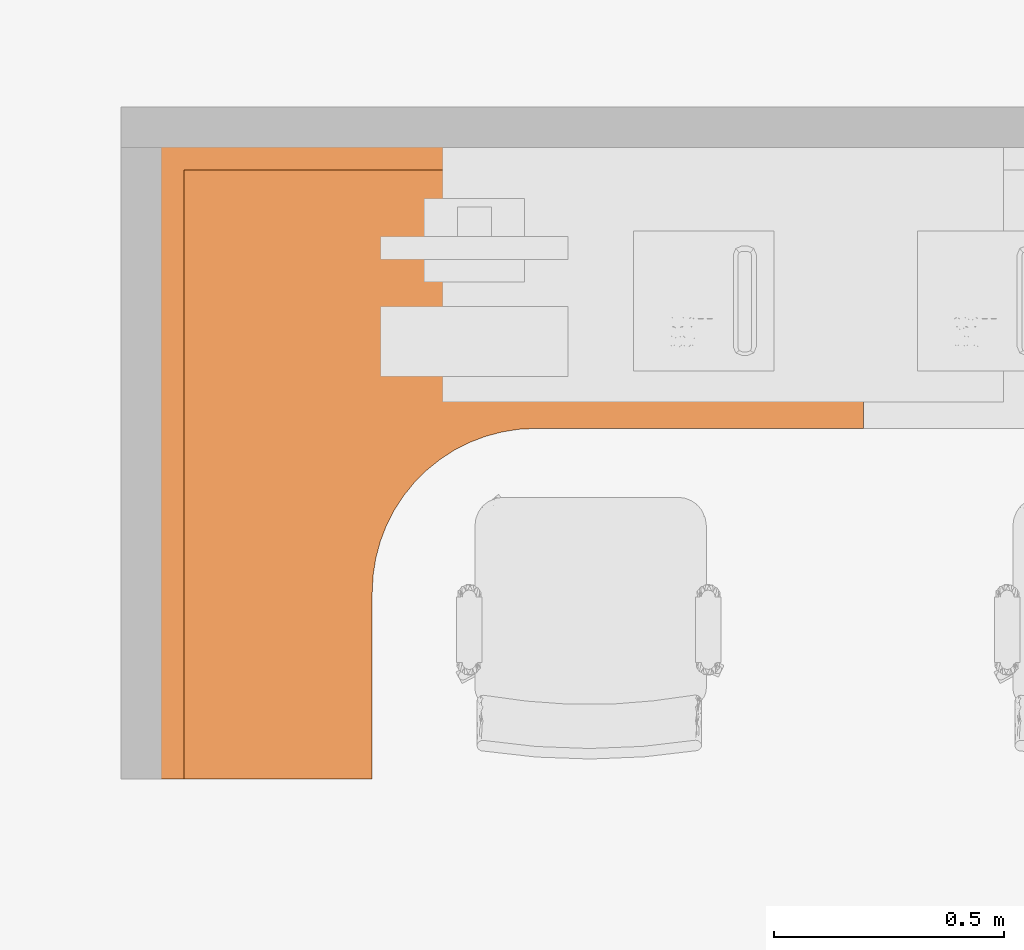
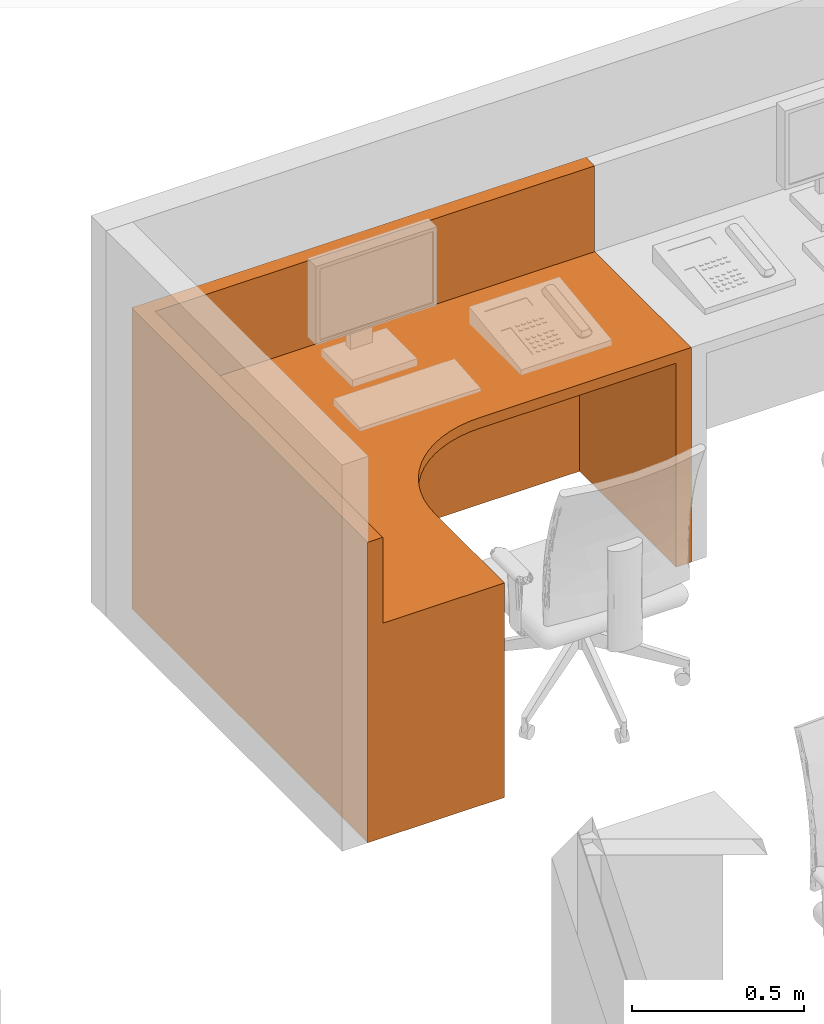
# One storey, part 56 of 142: 1 proxy.
"""IFC2X3 building model written with IfcOpenShell, lengths in feet."""

from ifc_helpers import new_model, entity, si_unit, converted_unit, derived_unit, direction, frame, frame_2d, origin, place, context, subcontext, project, spatial, polyline, circle_curve, parameter, trimmed, segment, composite_curve, rectangle, outline, extrude, source, transform, mapped, type_object, type_shapes, element, save


model = new_model("IFC2X3")

# Units and contexts
model_context = context("Model", 3, precision=0.0001, world=origin(), true_north=direction((6.12303176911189e-17, 1.0)))
body_context = subcontext(model_context, "Body", "Model", "MODEL_VIEW")
ifc_project = project(units=[converted_unit("LENGTHUNIT", "FOOT", entity("IfcRatioMeasure", 0.3048), si_unit("LENGTHUNIT", "METRE"), dimensions=[1, 0, 0, 0, 0, 0, 0]), converted_unit("AREAUNIT", "SQUARE FOOT", entity("IfcRatioMeasure", 0.09290304), si_unit("AREAUNIT", "SQUARE_METRE"), dimensions=[2, 0, 0, 0, 0, 0, 0]), converted_unit("VOLUMEUNIT", "CUBIC FOOT", entity("IfcRatioMeasure", 0.028316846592), si_unit("VOLUMEUNIT", "CUBIC_METRE"), dimensions=[3, 0, 0, 0, 0, 0, 0]), converted_unit("PLANEANGLEUNIT", "DEGREE", entity("IfcRatioMeasure", 0.0174532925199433), si_unit("PLANEANGLEUNIT", "RADIAN"), dimensions=[0, 0, 0, 0, 0, 0, 0]), si_unit("MASSUNIT", "GRAM", prefix="KILO"), derived_unit("MASSDENSITYUNIT", [(si_unit("MASSUNIT", "GRAM", prefix="KILO"), 1), (si_unit("LENGTHUNIT", "METRE"), -3)]), si_unit("TIMEUNIT", "SECOND"), si_unit("FREQUENCYUNIT", "HERTZ"), si_unit("THERMODYNAMICTEMPERATUREUNIT", "DEGREE_CELSIUS"), derived_unit("THERMALTRANSMITTANCEUNIT", [(si_unit("MASSUNIT", "GRAM", prefix="KILO"), 1), (si_unit("THERMODYNAMICTEMPERATUREUNIT", "KELVIN"), -1), (si_unit("TIMEUNIT", "SECOND"), -3)]), derived_unit("VOLUMETRICFLOWRATEUNIT", [(si_unit("LENGTHUNIT", "METRE"), 3), (si_unit("TIMEUNIT", "SECOND"), -1)]), si_unit("ELECTRICCURRENTUNIT", "AMPERE"), si_unit("ELECTRICVOLTAGEUNIT", "VOLT"), si_unit("POWERUNIT", "WATT"), si_unit("FORCEUNIT", "NEWTON"), si_unit("ILLUMINANCEUNIT", "LUX"), si_unit("LUMINOUSFLUXUNIT", "LUMEN"), si_unit("LUMINOUSINTENSITYUNIT", "CANDELA"), derived_unit("USERDEFINED", [(si_unit("MASSUNIT", "GRAM", prefix="KILO"), -1), (si_unit("LENGTHUNIT", "METRE"), -2), (si_unit("TIMEUNIT", "SECOND"), 3), (si_unit("LUMINOUSFLUXUNIT", "LUMEN"), 1)]), derived_unit("LINEARVELOCITYUNIT", [(si_unit("LENGTHUNIT", "METRE"), 1), (si_unit("TIMEUNIT", "SECOND"), -1)]), si_unit("PRESSUREUNIT", "PASCAL"), derived_unit("USERDEFINED", [(si_unit("LENGTHUNIT", "METRE"), -2), (si_unit("MASSUNIT", "GRAM", prefix="KILO"), 1), (si_unit("TIMEUNIT", "SECOND"), -2)])], contexts=[model_context])

# Site, building, storey, space
site_placement = place(None, origin())
site = spatial("IfcSite", under=ifc_project, at=site_placement, Name="Default", CompositionType="ELEMENT")
building_placement = place(site_placement, origin())
building = spatial("IfcBuilding", under=site, at=building_placement, Name="OUTPATIENT / PACT CLINIC (Ch. 265)", CompositionType="ELEMENT")
storey_placement = place(building_placement, origin())
storey = spatial("IfcBuildingStorey", under=building, at=storey_placement, Name="LEVEL 1", CompositionType="ELEMENT", Elevation=0.0)
space_placement = place(storey_placement, origin())
space = spatial("IfcSpace", under=storey, at=space_placement, Name="WRTM1", CompositionType="ELEMENT", InteriorOrExteriorSpace="INTERNAL")

# Proxy
building_element_proxy_type = type_object("IfcBuildingElementProxyType", Name="U0075 - Workstation, L-Shaped, Freestanding, 60x54", PredefinedType="NOTDEFINED")
shared_shape = source(origin(), body_context, "Body", "SweptSolid", [
    extrude(rectangle(XDim=2.0, YDim=0.166666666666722, at=frame_2d((-1.11022302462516e-16, -1.3836154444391e-14), x_axis=(1.0, 0.0))), frame((0.0833333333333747, 1.0, 0.0), z_axis=(0.0, 0.0, 1.0), x_axis=(0.0, 1.0, 0.0)), (0.0, 0.0, 1.0), 2.375),
    extrude(rectangle(XDim=1.5, YDim=0.166666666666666, at=frame_2d((-4.44089209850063e-16, 0.0), x_axis=(1.0, 0.0))), frame((4.25000000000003, 4.41666666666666, 0.0), z_axis=(0.0, 0.0, 1.0), x_axis=(-1.0, 0.0, 0.0)), (0.0, 0.0, 1.0), 2.37499999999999),
    extrude(outline(composite_curve([segment(polyline([(-2.3095238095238, -2.23809523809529), (2.19047619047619, -2.23809523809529)]), True, "CONTINUOUS"), segment(polyline([(2.19047619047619, -2.23809523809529), (2.19047619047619, -0.738095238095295)]), True, "CONTINUOUS"), segment(polyline([(2.19047619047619, -0.738095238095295), (0.857142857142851, -0.738095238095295)]), True, "CONTINUOUS"), segment(trimmed(circle_curve(frame_2d((0.857142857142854, 0.428571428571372), x_axis=(0.0, 1.0)), 1.16666666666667), [parameter(90.0)], [parameter(180.0)], True, "PARAMETER"), False, "CONTINUOUS"), segment(polyline([(-0.309523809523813, 0.428571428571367), (-0.309523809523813, 2.7619047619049)]), True, "CONTINUOUS"), segment(polyline([(-0.309523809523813, 2.7619047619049), (-2.3095238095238, 2.7619047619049)]), True, "CONTINUOUS"), segment(polyline([(-2.3095238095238, 2.7619047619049), (-2.3095238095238, -2.23809523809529)]), True, "CONTINUOUS")], self_intersect=False)), frame((2.76190476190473, 2.30952380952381, 2.37499999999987), z_axis=(0.0, 0.0, 1.0), x_axis=(0.0, 1.0, 0.0)), (0.0, 0.0, 1.0), 0.125),
    extrude(outline(polyline([(-2.16666666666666, -2.16666666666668), (2.33333333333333, -2.16666666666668), (2.33333333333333, -0.666666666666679), (-0.16666666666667, -0.666666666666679), (-0.16666666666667, 2.83333333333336), (-2.16666666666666, 2.83333333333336), (-2.16666666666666, -2.16666666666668)])), frame((2.83333333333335, 2.16666666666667, 2.37499999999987), z_axis=(0.0, 0.0, 1.0), x_axis=(0.0, 1.0, 0.0)), (0.0, 0.0, 1.0), 0.125),
    extrude(rectangle(XDim=0.166666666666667, YDim=5.00000000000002, at=frame_2d((2.77555756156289e-17, -2.22044604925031e-16), x_axis=(1.0, 0.0))), frame((2.49999999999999, 0.0750000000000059, 0.0), z_axis=(0.0, 0.0, 1.0), x_axis=(0.0, 1.0, 0.0)), (0.0, 0.0, 1.0), 3.5),
    extrude(rectangle(XDim=0.166666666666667, YDim=4.50000000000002, at=frame_2d((4.44089209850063e-16, 2.22044604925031e-16), x_axis=(1.0, 0.0))), frame((4.92500000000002, 2.25000000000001, 0.0), z_axis=(0.0, 0.0, 1.0), x_axis=(-1.0, 0.0, 0.0)), (0.0, 0.0, 1.0), 3.5),
])
type_shapes(building_element_proxy_type, [shared_shape])
proxy_placement = place(space_placement, frame((414.359283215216, -876.420519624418, 0.0), z_axis=(0.0, 0.0, 1.0), x_axis=(-1.0, 0.0, 0.0)))
element("IfcBuildingElementProxy", 1, at=proxy_placement, inside=space, type_object=building_element_proxy_type, Name="U0075 - Workstation, L-Shaped, Freestanding, 60x54:U0075 - Workstation, L-Shaped, Freestanding, 60x54", ObjectType="U0075 - Workstation, L-Shaped, Freestanding, 60x54", context=body_context, shape_type="MappedRepresentation", body=[
    mapped(shared_shape, transform((0.0, 0.0, 0.0), scale=1.0)),
])

save(model, "model.ifc")
